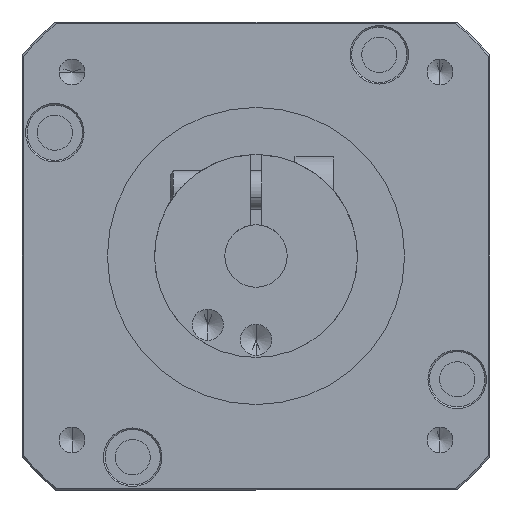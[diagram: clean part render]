
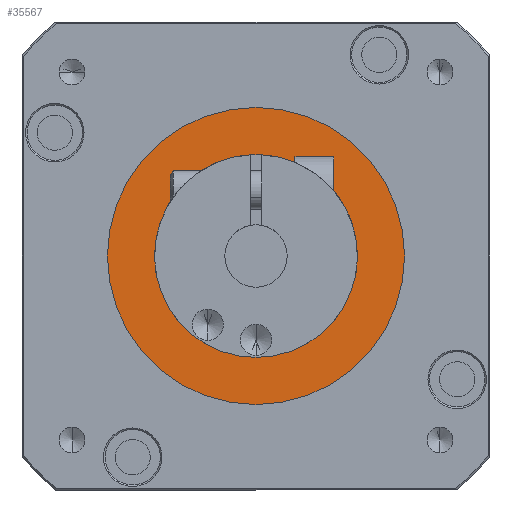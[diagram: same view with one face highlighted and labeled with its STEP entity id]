
A CAD part, front view. The second image highlights one B-rep face of the part: STEP entity #35567.
In plain terms, the highlighted planar face has unit normal (0, -1, 0).
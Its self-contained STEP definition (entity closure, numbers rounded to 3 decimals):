
#624 = DIRECTION ( 'NONE',  ( 0., 0., -1. ) ) ;
#922 = DIRECTION ( 'NONE',  ( 0., 0., -1. ) ) ;
#2230 = CARTESIAN_POINT ( 'NONE',  ( 0., -21., 0. ) ) ;
#2257 = VERTEX_POINT ( 'NONE', #25176 ) ;
#4397 = EDGE_LOOP ( 'NONE', ( #30135, #10383 ) ) ;
#4976 = DIRECTION ( 'NONE',  ( 0., 0., -1. ) ) ;
#5067 = AXIS2_PLACEMENT_3D ( 'NONE', #2230, #21773, #4976 ) ;
#5341 = EDGE_CURVE ( 'NONE', #19662, #24919, #8560, .T. ) ;
#6938 = EDGE_LOOP ( 'NONE', ( #13880, #26394 ) ) ;
#7650 = CIRCLE ( 'NONE', #24754, 22.5 ) ;
#8560 = CIRCLE ( 'NONE', #30604, 13. ) ;
#10383 = ORIENTED_EDGE ( 'NONE', *, *, #13769, .T. ) ;
#10572 = DIRECTION ( 'NONE',  ( 0., 1., 0. ) ) ;
#10792 = CARTESIAN_POINT ( 'NONE',  ( 0., -21., 13. ) ) ;
#11914 = FACE_OUTER_BOUND ( 'NONE', #6938, .T. ) ;
#12627 = CIRCLE ( 'NONE', #5067, 22.5 ) ;
#13769 = EDGE_CURVE ( 'NONE', #24919, #19662, #35728, .T. ) ;
#13880 = ORIENTED_EDGE ( 'NONE', *, *, #32463, .T. ) ;
#14402 = CARTESIAN_POINT ( 'NONE',  ( 13., -21., 0. ) ) ;
#14770 = PLANE ( 'NONE',  #29196 ) ;
#17292 = DIRECTION ( 'NONE',  ( 0., -1., 0. ) ) ;
#17579 = DIRECTION ( 'NONE',  ( 0., -1., 0. ) ) ;
#18355 = CARTESIAN_POINT ( 'NONE',  ( 0., -21., 0. ) ) ;
#18468 = CARTESIAN_POINT ( 'NONE',  ( 0., -21., -22.5 ) ) ;
#19662 = VERTEX_POINT ( 'NONE', #19741 ) ;
#19741 = CARTESIAN_POINT ( 'NONE',  ( 0., -21., -13. ) ) ;
#21632 = VERTEX_POINT ( 'NONE', #18468 ) ;
#21773 = DIRECTION ( 'NONE',  ( 0., -1., 0. ) ) ;
#22103 = EDGE_CURVE ( 'NONE', #2257, #21632, #12627, .T. ) ;
#22278 = DIRECTION ( 'NONE',  ( 0., 0., -1. ) ) ;
#24754 = AXIS2_PLACEMENT_3D ( 'NONE', #33832, #17292, #624 ) ;
#24919 = VERTEX_POINT ( 'NONE', #10792 ) ;
#25176 = CARTESIAN_POINT ( 'NONE',  ( 0., -21., 22.5 ) ) ;
#26394 = ORIENTED_EDGE ( 'NONE', *, *, #22103, .T. ) ;
#27310 = DIRECTION ( 'NONE',  ( 0., 0., -1. ) ) ;
#27426 = DIRECTION ( 'NONE',  ( 0., 1., 0. ) ) ;
#27468 = CARTESIAN_POINT ( 'NONE',  ( 0., -21., 0. ) ) ;
#27884 = AXIS2_PLACEMENT_3D ( 'NONE', #27468, #27426, #27310 ) ;
#29196 = AXIS2_PLACEMENT_3D ( 'NONE', #14402, #17579, #922 ) ;
#30135 = ORIENTED_EDGE ( 'NONE', *, *, #5341, .T. ) ;
#30604 = AXIS2_PLACEMENT_3D ( 'NONE', #18355, #10572, #22278 ) ;
#32463 = EDGE_CURVE ( 'NONE', #21632, #2257, #7650, .T. ) ;
#33832 = CARTESIAN_POINT ( 'NONE',  ( 0., -21., 0. ) ) ;
#34012 = FACE_BOUND ( 'NONE', #4397, .T. ) ;
#35567 = ADVANCED_FACE ( 'NONE', ( #11914, #34012 ), #14770, .T. ) ;
#35728 = CIRCLE ( 'NONE', #27884, 13. ) ;
